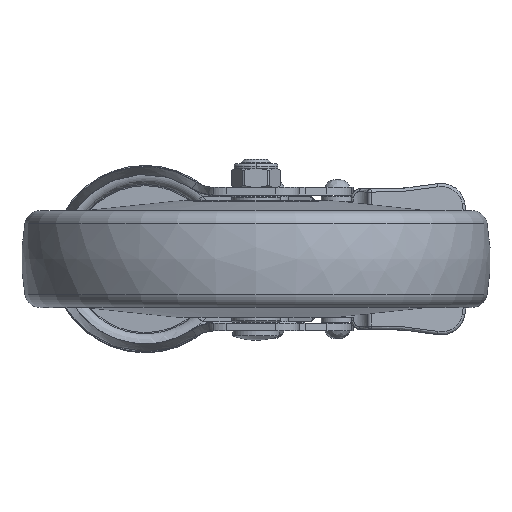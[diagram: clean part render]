
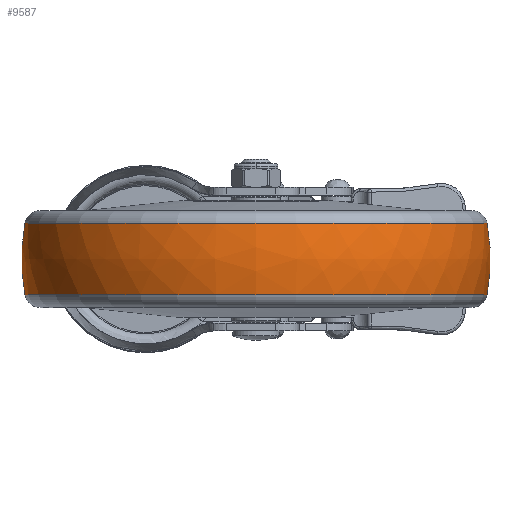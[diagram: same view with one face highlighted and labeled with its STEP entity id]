
A CAD part, front view. The second image highlights one B-rep face of the part: STEP entity #9587.
In plain terms, the highlighted free-form (B-spline) face has degree [3, 3] with [7, 4] control points.
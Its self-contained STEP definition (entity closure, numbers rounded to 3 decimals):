
#8816=CARTESIAN_POINT('',(-11.405,0.,0.));
#8817=DIRECTION('',(-1.,0.,0.));
#8818=DIRECTION('',(0.,1.,0.));
#8819=AXIS2_PLACEMENT_3D('',#8816,#8817,#8818);
#8831=CARTESIAN_POINT('',(0.,12.018,0.));
#8832=DIRECTION('',(0.,0.,1.));
#8833=DIRECTION('',(0.181,0.983,0.));
#8834=AXIS2_PLACEMENT_3D('',#8831,#8832,#8833);
#8836=CARTESIAN_POINT('',(0.,-12.018,0.));
#8837=DIRECTION('',(0.,0.,-1.));
#8838=DIRECTION('',(0.181,-0.983,0.));
#8839=AXIS2_PLACEMENT_3D('',#8836,#8837,#8838);
#8841=CARTESIAN_POINT('',(11.405,0.,0.));
#8842=DIRECTION('',(-1.,0.,0.));
#8843=DIRECTION('',(0.,1.,0.));
#8844=AXIS2_PLACEMENT_3D('',#8841,#8842,#8843);
#9093=CARTESIAN_POINT('',(11.405,73.977,0.));
#9095=VERTEX_POINT('',#9093);
#9096=CARTESIAN_POINT('',(-11.405,73.977,0.));
#9097=VERTEX_POINT('',#9096);
#9145=CARTESIAN_POINT('',(11.405,-73.977,
0.));
#9147=VERTEX_POINT('',#9145);
#9148=CARTESIAN_POINT('',(-11.405,-73.977,
0.));
#9149=VERTEX_POINT('',#9148);
#9551=CARTESIAN_POINT('',(-11.856,-73.746,
4.64));
#9552=CARTESIAN_POINT('',(-4.,-75.249,
4.734));
#9553=CARTESIAN_POINT('',(4.,-75.249,4.734));
#9554=CARTESIAN_POINT('',(11.856,-73.746,4.64));
#9555=CARTESIAN_POINT('',(-11.856,-76.601,
-40.744));
#9556=CARTESIAN_POINT('',(-4.,-78.162,
-41.574));
#9557=CARTESIAN_POINT('',(4.,-78.162,
-41.574));
#9558=CARTESIAN_POINT('',(11.856,-76.601,
-40.744));
#9559=CARTESIAN_POINT('',(-11.856,-45.473,
-73.892));
#9560=CARTESIAN_POINT('',(-4.,-46.399,
-75.397));
#9561=CARTESIAN_POINT('',(4.,-46.399,
-75.397));
#9562=CARTESIAN_POINT('',(11.856,-45.473,
-73.892));
#9563=CARTESIAN_POINT('',(-11.856,0.,
-73.892));
#9564=CARTESIAN_POINT('',(-4.,0.,
-75.397));
#9565=CARTESIAN_POINT('',(4.,0.,
-75.397));
#9566=CARTESIAN_POINT('',(11.856,0.,
-73.892));
#9567=CARTESIAN_POINT('',(-11.856,45.473,
-73.892));
#9568=CARTESIAN_POINT('',(-4.,46.399,
-75.397));
#9569=CARTESIAN_POINT('',(4.,46.399,-75.397));
#9570=CARTESIAN_POINT('',(11.856,45.473,-73.892));
#9571=CARTESIAN_POINT('',(-11.856,76.601,
-40.744));
#9572=CARTESIAN_POINT('',(-4.,78.162,
-41.574));
#9573=CARTESIAN_POINT('',(4.,78.162,-41.574));
#9574=CARTESIAN_POINT('',(11.856,76.601,-40.744));
#9575=CARTESIAN_POINT('',(-11.856,73.746,4.64));
#9576=CARTESIAN_POINT('',(-4.,75.249,4.734));
#9577=CARTESIAN_POINT('',(4.,75.249,4.734));
#9578=CARTESIAN_POINT('',(11.856,73.746,4.64));
#9579=(BOUNDED_SURFACE()B_SPLINE_SURFACE(3,3,((#9551,#9552,#9553,#9554),(#9555,
#9556,#9557,#9558),(#9559,#9560,#9561,#9562),(#9563,#9564,#9565,#9566),(#9567,
#9568,#9569,#9570),(#9571,#9572,#9573,#9574),(#9575,#9576,#9577,#9578)),
.UNSPECIFIED.,.F.,.F.,.F.)B_SPLINE_SURFACE_WITH_KNOTS((4,3,4),(4,4),(0.,1.,
2.),(0.,1.),.UNSPECIFIED.)GEOMETRIC_REPRESENTATION_ITEM()RATIONAL_B_SPLINE_SURFACE(((1.198,1.184,1.184,1.198),(
0.946,0.935,0.935,0.946),(
0.946,0.935,0.935,0.946),(
1.198,1.184,1.184,1.198),(
0.946,0.935,0.935,0.946),(
0.946,0.935,0.935,0.946),(
1.198,1.184,1.184,1.198)))REPRESENTATION_ITEM('')SURFACE());
#9580=ORIENTED_EDGE('',*,*,#9541,.T.);
#9581=ORIENTED_EDGE('',*,*,#9494,.T.);
#9582=ORIENTED_EDGE('',*,*,#9545,.F.);
#9584=ORIENTED_EDGE('',*,*,#9583,.F.);
#9585=EDGE_LOOP('',(#9580,#9581,#9582,#9584));
#9586=FACE_OUTER_BOUND('',#9585,.F.);
#8820=CIRCLE('',#8819,73.977);
#8835=CIRCLE('',#8834,63.);
#8840=CIRCLE('',#8839,63.);
#8845=CIRCLE('',#8844,73.977);
#9494=EDGE_CURVE('',#9097,#9149,#8820,.T.);
#9541=EDGE_CURVE('',#9095,#9097,#8835,.T.);
#9545=EDGE_CURVE('',#9147,#9149,#8840,.T.);
#9583=EDGE_CURVE('',#9095,#9147,#8845,.T.);
#9587=ADVANCED_FACE('',(#9586),#9579,.T.);
